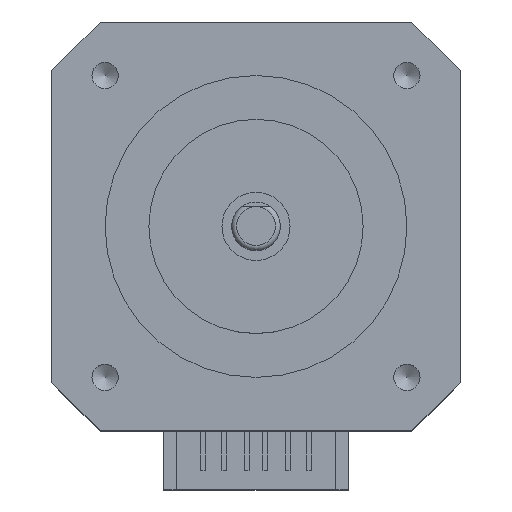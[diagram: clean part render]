
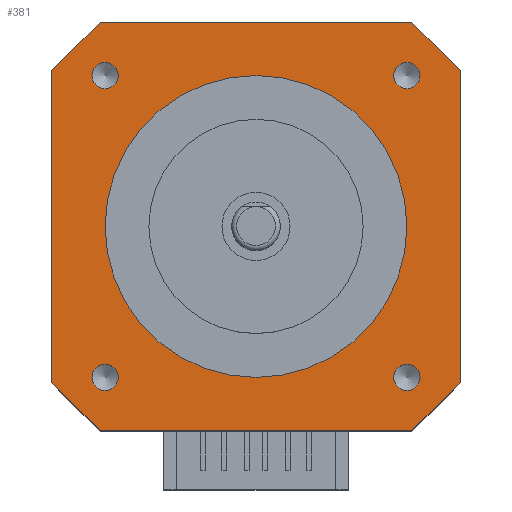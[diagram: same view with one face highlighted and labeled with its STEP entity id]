
A CAD part, top view. The second image highlights one B-rep face of the part: STEP entity #381.
In plain terms, the highlighted planar face has unit normal (0, 0, 1).
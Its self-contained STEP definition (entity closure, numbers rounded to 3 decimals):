
#124=PLANE('',#2876);
#381=ADVANCED_FACE('',(#1203,#1204,#1205,#1206,#1207,#1208),#124,.F.);
#628=LINE('',#3987,#946);
#629=LINE('',#3990,#947);
#630=LINE('',#3992,#948);
#631=LINE('',#3994,#949);
#632=LINE('',#3996,#950);
#633=LINE('',#3998,#951);
#634=LINE('',#4000,#952);
#635=LINE('',#4002,#953);
#946=VECTOR('',#3192,1.);
#947=VECTOR('',#3193,1.);
#948=VECTOR('',#3194,1.);
#949=VECTOR('',#3195,1.);
#950=VECTOR('',#3196,1.);
#951=VECTOR('',#3197,1.);
#952=VECTOR('',#3198,1.);
#953=VECTOR('',#3199,1.);
#1203=FACE_BOUND('',#1294,.T.);
#1204=FACE_BOUND('',#1295,.T.);
#1205=FACE_BOUND('',#1296,.T.);
#1206=FACE_BOUND('',#1297,.T.);
#1207=FACE_BOUND('',#1298,.T.);
#1208=FACE_BOUND('',#1299,.T.);
#1294=EDGE_LOOP('',(#1578));
#1295=EDGE_LOOP('',(#1579));
#1296=EDGE_LOOP('',(#1580));
#1297=EDGE_LOOP('',(#1581));
#1298=EDGE_LOOP('',(#1582,#1583,#1584,#1585,#1586,#1587,#1588,#1589));
#1299=EDGE_LOOP('',(#1590));
#1578=ORIENTED_EDGE('',*,*,#2548,.T.);
#1579=ORIENTED_EDGE('',*,*,#2549,.T.);
#1580=ORIENTED_EDGE('',*,*,#2550,.T.);
#1581=ORIENTED_EDGE('',*,*,#2551,.T.);
#1582=ORIENTED_EDGE('',*,*,#2552,.F.);
#1583=ORIENTED_EDGE('',*,*,#2553,.T.);
#1584=ORIENTED_EDGE('',*,*,#2554,.F.);
#1585=ORIENTED_EDGE('',*,*,#2555,.T.);
#1586=ORIENTED_EDGE('',*,*,#2556,.F.);
#1587=ORIENTED_EDGE('',*,*,#2557,.T.);
#1588=ORIENTED_EDGE('',*,*,#2558,.F.);
#1589=ORIENTED_EDGE('',*,*,#2559,.T.);
#1590=ORIENTED_EDGE('',*,*,#2560,.T.);
#2290=VERTEX_POINT('',#3980);
#2291=VERTEX_POINT('',#3982);
#2292=VERTEX_POINT('',#3984);
#2293=VERTEX_POINT('',#3986);
#2294=VERTEX_POINT('',#3988);
#2295=VERTEX_POINT('',#3989);
#2296=VERTEX_POINT('',#3991);
#2297=VERTEX_POINT('',#3993);
#2298=VERTEX_POINT('',#3995);
#2299=VERTEX_POINT('',#3997);
#2300=VERTEX_POINT('',#3999);
#2301=VERTEX_POINT('',#4001);
#2302=VERTEX_POINT('',#4004);
#2548=EDGE_CURVE('',#2290,#2290,#2820,.T.);
#2549=EDGE_CURVE('',#2291,#2291,#2821,.T.);
#2550=EDGE_CURVE('',#2292,#2292,#2822,.T.);
#2551=EDGE_CURVE('',#2293,#2293,#2823,.T.);
#2552=EDGE_CURVE('',#2294,#2295,#628,.T.);
#2553=EDGE_CURVE('',#2294,#2296,#629,.T.);
#2554=EDGE_CURVE('',#2297,#2296,#630,.T.);
#2555=EDGE_CURVE('',#2297,#2298,#631,.T.);
#2556=EDGE_CURVE('',#2299,#2298,#632,.T.);
#2557=EDGE_CURVE('',#2299,#2300,#633,.T.);
#2558=EDGE_CURVE('',#2301,#2300,#634,.T.);
#2559=EDGE_CURVE('',#2301,#2295,#635,.T.);
#2560=EDGE_CURVE('',#2302,#2302,#2824,.T.);
#2820=CIRCLE('',#2871,1.35);
#2821=CIRCLE('',#2872,1.35);
#2822=CIRCLE('',#2873,1.35);
#2823=CIRCLE('',#2874,1.35);
#2824=CIRCLE('',#2875,15.5);
#2871=AXIS2_PLACEMENT_3D('',#3979,#3184,#3185);
#2872=AXIS2_PLACEMENT_3D('',#3981,#3186,#3187);
#2873=AXIS2_PLACEMENT_3D('',#3983,#3188,#3189);
#2874=AXIS2_PLACEMENT_3D('',#3985,#3190,#3191);
#2875=AXIS2_PLACEMENT_3D('',#4003,#3200,#3201);
#2876=AXIS2_PLACEMENT_3D('',#4005,#3202,#3203);
#3184=DIRECTION('',(0.,0.,-1.));
#3185=DIRECTION('',(-1.,0.,0.));
#3186=DIRECTION('',(0.,0.,-1.));
#3187=DIRECTION('',(-1.,0.,0.));
#3188=DIRECTION('',(0.,0.,-1.));
#3189=DIRECTION('',(-1.,0.,0.));
#3190=DIRECTION('',(0.,0.,-1.));
#3191=DIRECTION('',(-1.,0.,0.));
#3192=DIRECTION('',(1.,0.,0.));
#3193=DIRECTION('',(-0.707,-0.707,0.));
#3194=DIRECTION('',(0.,1.,0.));
#3195=DIRECTION('',(0.707,-0.707,0.));
#3196=DIRECTION('',(-1.,0.,0.));
#3197=DIRECTION('',(0.707,0.707,0.));
#3198=DIRECTION('',(0.,-1.,0.));
#3199=DIRECTION('',(-0.707,0.707,0.));
#3200=DIRECTION('',(0.,0.,-1.));
#3201=DIRECTION('',(1.,0.,0.));
#3202=DIRECTION('',(0.,0.,-1.));
#3203=DIRECTION('',(-1.,0.,0.));
#3979=CARTESIAN_POINT('',(15.5,-15.5,0.));
#3980=CARTESIAN_POINT('',(14.15,-15.5,0.));
#3981=CARTESIAN_POINT('',(15.5,15.5,0.));
#3982=CARTESIAN_POINT('',(14.15,15.5,0.));
#3983=CARTESIAN_POINT('',(-15.5,15.5,0.));
#3984=CARTESIAN_POINT('',(-16.85,15.5,0.));
#3985=CARTESIAN_POINT('',(-15.5,-15.5,0.));
#3986=CARTESIAN_POINT('',(-16.85,-15.5,0.));
#3987=CARTESIAN_POINT('',(-21.,21.,0.));
#3988=CARTESIAN_POINT('',(-16.,21.,0.));
#3989=CARTESIAN_POINT('',(16.,21.,0.));
#3990=CARTESIAN_POINT('',(-16.,21.,0.));
#3991=CARTESIAN_POINT('',(-21.,16.,0.));
#3992=CARTESIAN_POINT('',(-21.,-21.,0.));
#3993=CARTESIAN_POINT('',(-21.,-16.,0.));
#3994=CARTESIAN_POINT('',(-21.,-16.,0.));
#3995=CARTESIAN_POINT('',(-16.,-21.,0.));
#3996=CARTESIAN_POINT('',(21.,-21.,0.));
#3997=CARTESIAN_POINT('',(16.,-21.,0.));
#3998=CARTESIAN_POINT('',(16.,-21.,0.));
#3999=CARTESIAN_POINT('',(21.,-16.,0.));
#4000=CARTESIAN_POINT('',(21.,21.,0.));
#4001=CARTESIAN_POINT('',(21.,16.,0.));
#4002=CARTESIAN_POINT('',(21.,16.,0.));
#4003=CARTESIAN_POINT('',(0.,0.,0.));
#4004=CARTESIAN_POINT('',(15.5,0.,0.));
#4005=CARTESIAN_POINT('',(-21.,-21.,0.));
